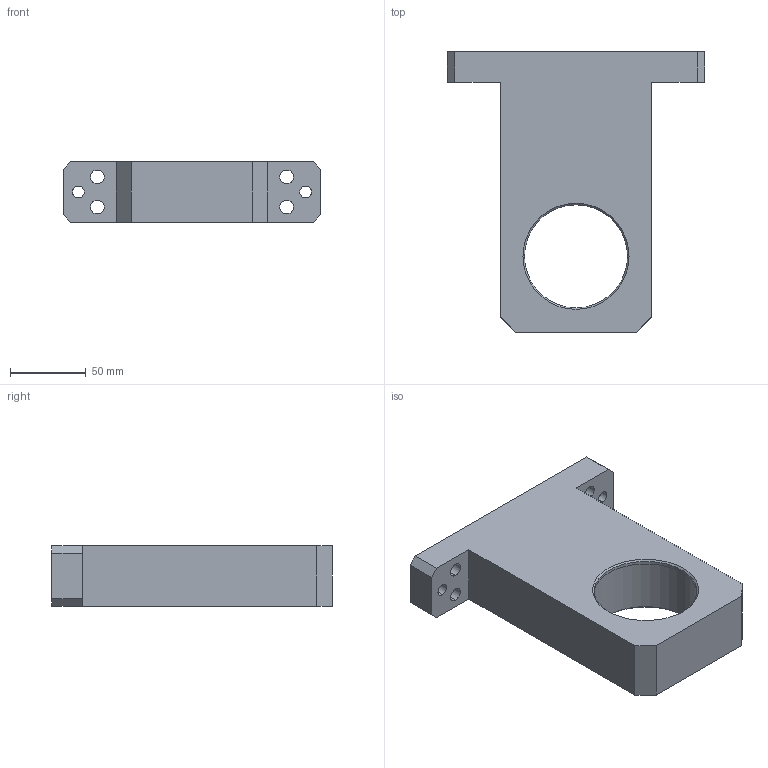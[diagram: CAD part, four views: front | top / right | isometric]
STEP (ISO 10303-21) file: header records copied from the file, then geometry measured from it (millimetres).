
FILE_DESCRIPTION (( 'STEP AP203' ), '1' );
FILE_NAME ('YWSD-2026-03-01-04=002 湖艦粣創釱.STEP', '2026-07-24T07:33:24', ( 'Windows 蚚誧' ), ( '' ), 'SwSTEP 2.0', 'SolidWorks 2024', '' );
FILE_SCHEMA (( 'CONFIG_CONTROL_DESIGN' ));
Length unit declared in the file: millimetre
Products named in the file (1): YWSD-2026-03-01-04=002 打磨轴承座
Bounding box: 170 x 185 x 40 mm (x, y, z)
Volume: 621019.2 mm3; surface area: 72186.4 mm2
Topology: 1 solids, 1 shells, 53 faces, 138 edges, 84 vertices
Faces by surface type: cylinder 24, plane 17, cone 12
Entity records: 1677 total; most frequent: DIRECTION 290, CARTESIAN_POINT 268, ORIENTED_EDGE 260, EDGE_CURVE 130, AXIS2_PLACEMENT_3D 106, VERTEX_POINT 84, VECTOR 78, LINE 78
